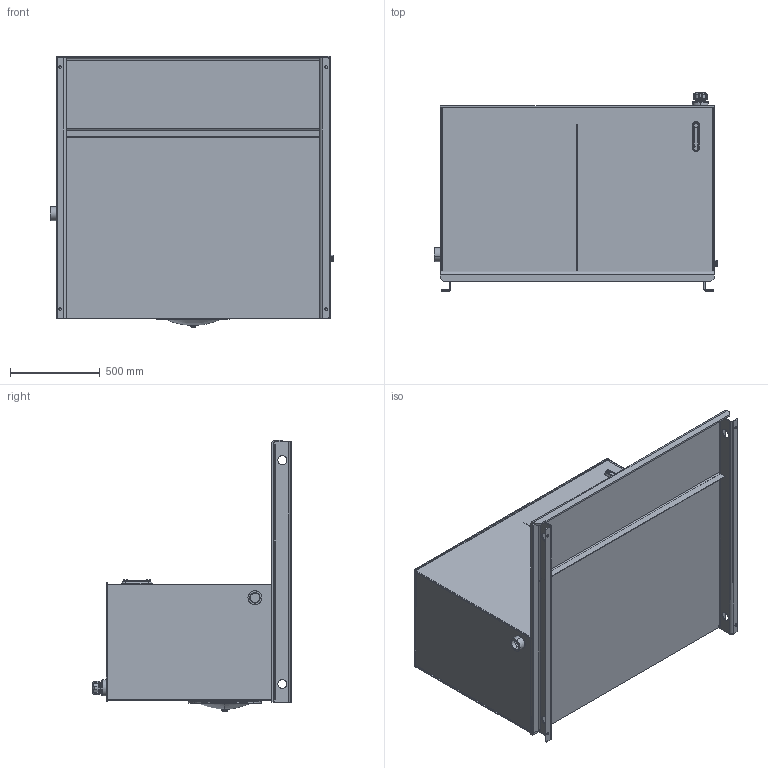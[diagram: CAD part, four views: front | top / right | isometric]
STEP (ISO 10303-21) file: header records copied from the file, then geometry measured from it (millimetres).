
FILE_DESCRIPTION (( 'STEP AP203' ), '1' );
FILE_NAME ('RLC200-FT.STEP', '2015-01-07T16:52:28', ( '' ), ( '' ), 'SwSTEP 2.0', 'SolidWorks 2014', '' );
FILE_SCHEMA (( 'CONFIG_CONTROL_DESIGN' ));
Length unit declared in the file: inch
Products named in the file (1): RLC200-FT
Bounding box: 1574.8 x 1105.79 x 1510.43 mm (x, y, z)
Volume: 52410125 mm3; surface area: 17335111.9 mm2
Topology: 22 solids, 22 shells, 683 faces, 1605 edges, 965 vertices
Faces by surface type: plane 238, cylinder 234, cone 86, torus 51, bspline 46, sphere 28
Entity records: 21788 total; most frequent: CARTESIAN_POINT 5916, DIRECTION 3455, ORIENTED_EDGE 3186, EDGE_CURVE 1593, AXIS2_PLACEMENT_3D 1356, VERTEX_POINT 965, EDGE_LOOP 772, LINE 743
